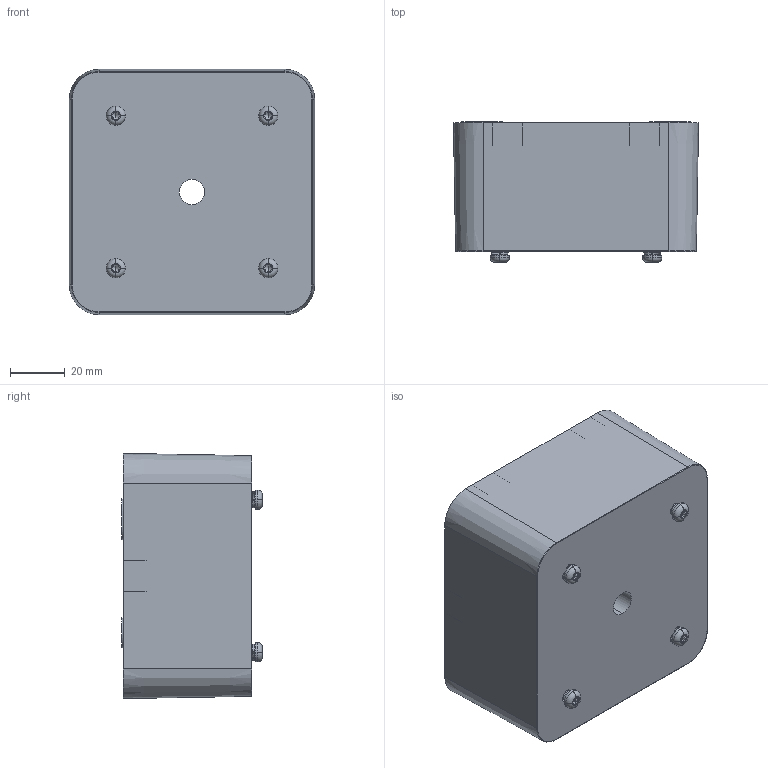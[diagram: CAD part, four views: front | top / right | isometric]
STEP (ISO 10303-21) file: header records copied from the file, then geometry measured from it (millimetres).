
FILE_DESCRIPTION (( 'STEP AP214' ), '1' );
FILE_NAME ('CS_AP-Dose.STEP', '2021-02-15T07:15:11', ( '' ), ( '' ), 'SwSTEP 2.0', 'SolidWorks 2017', '' );
FILE_SCHEMA (( 'AUTOMOTIVE_DESIGN' ));
Length unit declared in the file: millimetre
Products named in the file (2): CS_AP-Dose
Bounding box: 89.64 x 51.4 x 89.64 mm (x, y, z)
Surface area: 33995.8 mm2 (no closed solid volume)
Topology: 0 solids, 14 shells, 243 faces, 858 edges, 610 vertices
Faces by surface type: cylinder 89, plane 64, cone 44, torus 28, bspline 18
Entity records: 12901 total; most frequent: CARTESIAN_POINT 3495, ORIENTED_EDGE 1340, DIRECTION 1264, EDGE_CURVE 850, VERTEX_POINT 610, AXIS2_PLACEMENT_3D 458, LINE 348, VECTOR 348
